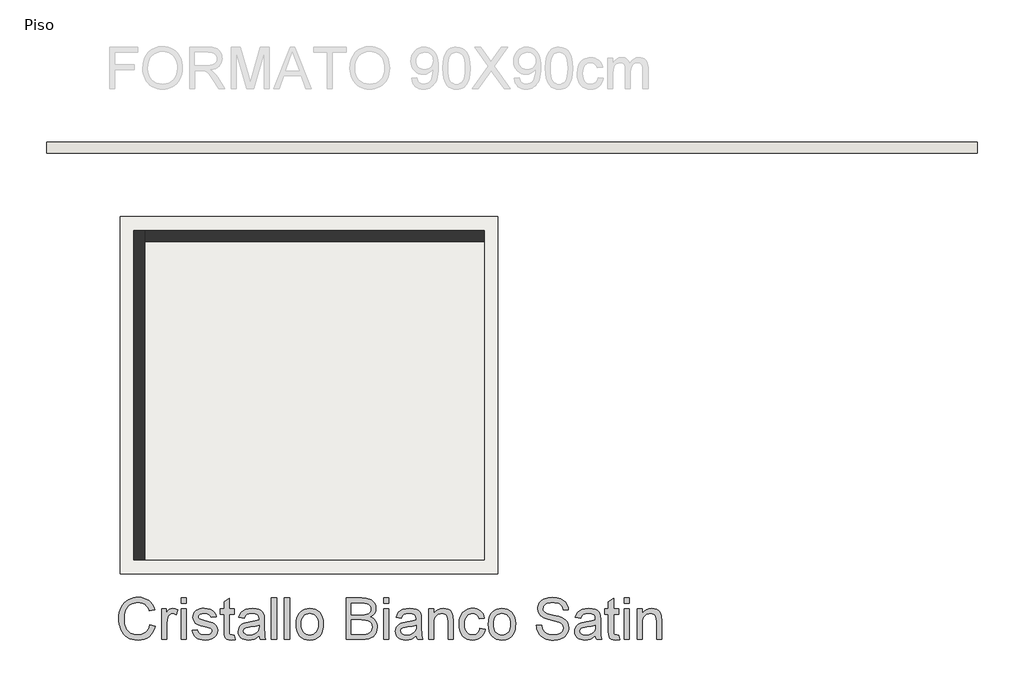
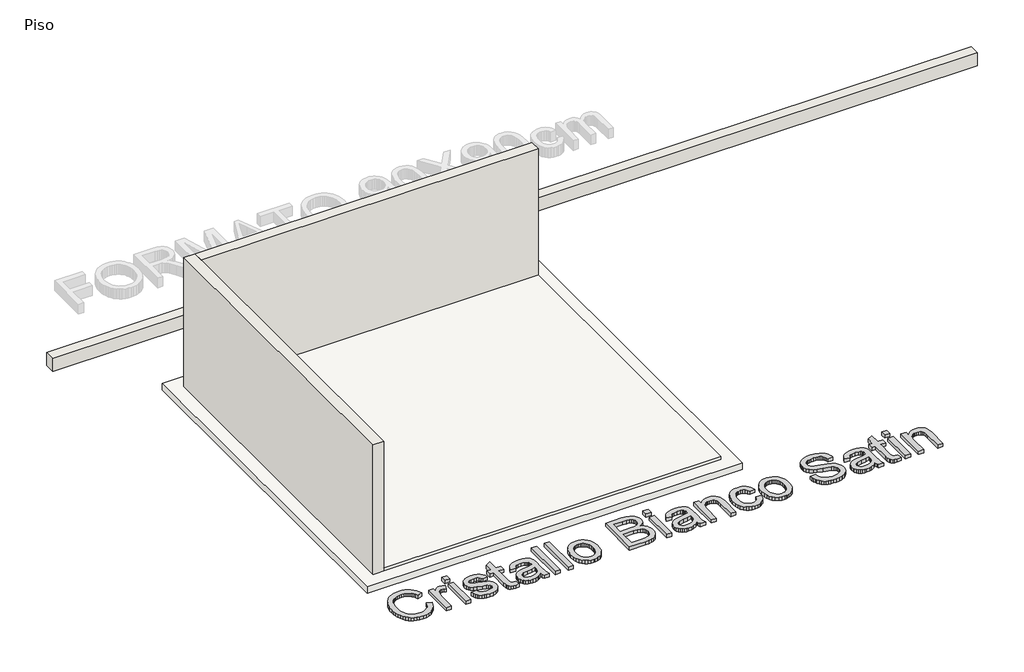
# One storey, part 1 of 2: 3 walls, 2 slabs, 1 proxy.
"""IFC4 building model written with IfcOpenShell, lengths in millimetres."""

from ifc_helpers import new_model, si_unit, frame, origin, origin_with_axes, place, context, project, spatial, polyline, outline, extrude, faceted_brep, element, save

model = new_model("IFC4")

# Units and contexts
model_context = context("Model", 3, world=origin())
ifc_project = project(units=[si_unit("LENGTHUNIT", "METRE", prefix="MILLI")], contexts=[model_context])

# Site, building, storey
site = spatial("IfcSite", under=ifc_project)
building = spatial("IfcBuilding", under=site)
storey = spatial("IfcBuildingStorey", under=building, Name="Piso", Elevation=0.0)

# Proxy
placement = place(None, origin())
element("IfcBuildingElementProxy", 1, Name="600mm Arial", ObjectType="600mm Arial", at=placement, inside=storey, context=model_context, shape_type="SweptSolid", body=[
    extrude(outline(polyline([(93186.7208776, -5076.6528071), (93262.0631103, -5096.0769765), (93247.1546924, -5142.9313471), (93227.2982617, -5183.8720146), (93202.4938182, -5218.8989791), (93172.7413618, -5248.0122405), (93138.7122773, -5270.8990991), (93101.0779492, -5287.2468553), (93059.8383775, -5297.0555089), (93014.9935623, -5300.3250602), (92969.0496996, -5297.8510538), (92927.6031943, -5290.4290345), (92890.6540465, -5278.0590024), (92858.202256, -5260.7409575), (92829.8017659, -5238.7324171), (92805.0065194, -5212.2908987), (92783.8165165, -5181.4164023), (92766.2317572, -5146.1089278), (92752.4223868, -5107.8951856), (92742.5585508, -5068.3018858), (92736.6402492, -5027.3290286), (92734.667482, -4984.9766139), (92736.8977666, -4939.5339905), (92743.5886204, -4897.0896053), (92754.7400433, -4857.6434583), (92770.3520355, -4821.1955497), (92790.075109, -4788.348286), (92813.5597758, -4759.7040742), (92840.8060361, -4735.2629141), (92871.8138898, -4715.0248059), (92905.5302746, -4699.1552963), (92940.9021285, -4687.8199323), (92977.9294513, -4681.0187139), (93016.6122431, -4678.7516411), (93059.7050203, -4681.6855), (93099.2201451, -4690.4870768), (93135.1576175, -4705.1563713), (93167.5174375, -4725.6933837), (93195.7661762, -4751.555488), (93219.3704047, -4782.2000582), (93238.330123, -4817.6270943), (93252.6453312, -4857.8365964), (93177.3030986, -4875.7892377), (93165.4389042, -4846.1609416), (93151.1834769, -4820.8460618), (93134.5368166, -4799.8445984), (93115.4989234, -4783.1565514), (93093.9594326, -4770.4416299), (93069.8079796, -4761.3595431), (93043.0445644, -4755.9102911), (93013.6691871, -4754.0938737), (92979.8700288, -4756.1080277), (92948.9587442, -4762.1504894), (92920.9353332, -4772.2212591), (92895.7997959, -4786.3203365), (92873.8694304, -4803.8131254), (92855.4615351, -4824.0650292), (92840.5761099, -4847.076048), (92829.2131547, -4872.8461818), (92814.8105746, -4927.9916929), (92810.0097146, -4984.8294611), (92815.6934914, -5054.4327346), (92822.7982124, -5085.7027042), (92832.7448219, -5114.618229), (92845.6942681, -5140.6044934), (92861.8074995, -5163.0866819), (92881.0845161, -5182.0647943), (92903.5253178, -5197.5388307), (92928.0400542, -5209.5455793), (92953.538875, -5218.1218284), (92980.0217801, -5223.2675778), (93007.4887696, -5224.9828276), (93040.2440627, -5222.6467769), (93070.3781967, -5215.6386249), (93097.8911714, -5203.9583715), (93122.7829869, -5187.6060169), (93144.465032, -5166.6551372), (93162.3486955, -5141.1793091), (93176.4339774, -5111.1785324), (93186.7208776, -5076.6528071)])), origin_with_axes(), (0.0, 0.0, 1.0), 50.0),
    extrude(outline(polyline([(93356.240901, -5290.9072811), (93356.240901, -4848.2716645), (93422.1653546, -4848.2716645), (93422.1653546, -4913.7546596), (93446.5191426, -4875.7892377), (93468.9599443, -4853.4220124), (93491.4743224, -4842.4959172), (93516.0488397, -4838.8538854), (93553.5728032, -4844.666421), (93591.6853779, -4862.1040275), (93566.5222495, -4929.6471618), (93540.0347458, -4918.058879), (93513.5472422, -4914.196118), (93491.0512582, -4917.9117262), (93470.9465071, -4929.0585506), (93454.704517, -4946.7904628), (93443.7968159, -4970.2613341), (93434.6365542, -5012.3470344), (93431.5831336, -5058.2587074), (93431.5831336, -5290.9072811), (93356.240901, -5290.9072811)])), origin_with_axes(), (0.0, 0.0, 1.0), 50.0),
    extrude(outline(polyline([(93638.7742733, -4763.5116528), (93638.7742733, -4688.1694202), (93714.1165059, -4688.1694202), (93714.1165059, -4763.5116528), (93638.7742733, -4763.5116528)])), origin_with_axes(), (0.0, 0.0, 1.0), 50.0),
    extrude(outline(polyline([(93638.7742733, -5290.9072811), (93638.7742733, -4848.2716645), (93714.1165059, -4848.2716645), (93714.1165059, -5290.9072811), (93638.7742733, -5290.9072811)])), origin_with_axes(), (0.0, 0.0, 1.0), 50.0),
    extrude(outline(polyline([(93798.8765176, -5159.058374), (93874.2187502, -5149.640595), (93878.7712899, -5166.8206841), (93886.1013387, -5181.8670577), (93896.2088965, -5194.7797158), (93909.0939634, -5205.5586582), (93924.7933275, -5214.0567323), (93943.3437771, -5220.1267852), (93988.9979327, -5224.9828276), (94034.1002653, -5220.5314554), (94051.6298424, -5214.9672402), (94065.8116933, -5207.177339), (94084.5736751, -5187.8267461), (94089.2641705, -5176.9926213), (94090.827669, -5165.3859443), (94089.2549735, -5155.2140072), (94084.5368869, -5146.1825042), (94065.6645405, -5131.5408008), (94037.4479915, -5121.9758689), (93988.1150159, -5110.0564923), (93919.357871, -5090.1724704), (93874.6602086, -5073.1947164), (93845.9470189, -5054.6718579), (93825.1432921, -5030.1525229), (93812.5065455, -5001.2002099), (93808.2942967, -4969.3784173), (93811.6788111, -4940.186981), (93821.8323541, -4913.2396249), (93837.8352209, -4889.6032067), (93858.7677064, -4870.3445842), (93879.5714333, -4858.2228725), (93906.6659422, -4848.0509353), (93937.9910941, -4841.1531479), (93971.4867498, -4838.8538854), (94020.5254197, -4842.5510995), (94063.162943, -4853.6427416), (94097.4495449, -4871.04356), (94121.435451, -4893.6683027), (94137.3279532, -4923.1908328), (94147.3343434, -4961.2850134), (94071.9921108, -4970.7027925), (94062.4823613, -4946.9927979), (94043.6651972, -4929.132127), (94015.3566777, -4917.9301203), (93977.3728617, -4914.196118), (93934.109939, -4917.7645734), (93905.2679906, -4928.4699395), (93889.0443946, -4943.9209833), (93883.6365293, -4961.7264718), (93885.8806095, -4973.3147547), (93892.61285, -4983.6522387), (93904.1275564, -4992.8860768), (93920.7190344, -5000.2805049), (93985.6134184, -5016.3201599), (94096.1987461, -5051.7839842), (94125.4085765, -5068.7433442), (94147.5550726, -5091.9566981), (94161.5161944, -5121.4976223), (94166.1699016, -5157.4396933), (94160.706854, -5194.5957748), (94144.3177111, -5229.5445643), (94117.6278723, -5259.545341), (94081.2627371, -5281.857384), (94037.3376269, -5295.7081411), (93987.9678631, -5300.3250602), (93947.4180702, -5298.0993741), (93912.0002311, -5291.4223159), (93881.7143459, -5280.2938855), (93856.5604145, -5264.714083), (93836.014205, -5244.7564848), (93819.5514857, -5220.4946672), (93807.1722566, -5191.9286303), (93798.8765176, -5159.058374)])), origin_with_axes(), (0.0, 0.0, 1.0), 50.0),
    extrude(outline(polyline([(94411.0321576, -5228.0730363), (94420.4499367, -5293.1145731), (94364.090415, -5300.3250602), (94327.9276149, -5297.1980632), (94300.9618646, -5287.8170723), (94281.9055773, -5273.3593099), (94269.4711658, -5255.0019984), (94262.6285607, -5223.4745114), (94260.3476924, -5169.5062227), (94260.3476924, -4923.6138971), (94203.8410179, -4923.6138971), (94203.8410179, -4848.2716645), (94260.3476924, -4848.2716645), (94260.3476924, -4740.7029691), (94335.689925, -4696.4099769), (94335.689925, -4848.2716645), (94411.0321576, -4848.2716645), (94411.0321576, -4923.6138971), (94335.689925, -4923.6138971), (94335.689925, -5167.2989307), (94339.6630505, -5206.1472694), (94352.5389204, -5219.906056), (94363.4098333, -5223.7136347), (94378.2170836, -5224.9828276), (94411.0321576, -5228.0730363)])), origin_with_axes(), (0.0, 0.0, 1.0), 50.0),
    extrude(outline(polyline([(94768.9077625, -5234.4006066), (94732.9105093, -5265.265906), (94695.8463983, -5285.4626276), (94656.8693009, -5296.609452), (94615.1330885, -5300.3250602), (94581.5868491, -5298.0901771), (94552.170085, -5291.3855277), (94526.8827964, -5280.2111121), (94505.7249832, -5264.5669302), (94489.018542, -5245.4462635), (94477.0853698, -5223.8423934), (94469.9254665, -5199.7553197), (94467.5388321, -5173.1850426), (94471.1440756, -5141.9518613), (94481.9598063, -5113.5881594), (94498.6432547, -5089.3079477), (94519.8516518, -5070.3252368), (94544.7756569, -5055.977839), (94572.6059299, -5045.6035667), (94637.7946194, -5034.2728013), (94714.8291092, -5022.3534246), (94768.4663041, -5008.3739088), (94768.9077625, -4991.5984898), (94763.7206264, -4957.9740755), (94757.2367062, -4945.5212699), (94748.159218, -4935.9747322), (94732.4690509, -4926.4465885), (94713.3575812, -4919.6407716), (94664.8707343, -4914.196118), (94619.9891309, -4917.8197557), (94588.6455849, -4928.6906687), (94567.2716409, -4948.7954197), (94552.2988437, -4980.1205716), (94476.9566111, -4970.7027925), (94490.0348161, -4929.500009), (94509.5509559, -4897.1263935), (94537.3260465, -4872.3679352), (94575.1811038, -4854.0106236), (94621.4790529, -4842.64307), (94674.5828189, -4838.8538854), (94725.5160812, -4842.2016116), (94765.8911301, -4852.2447901), (94796.3333652, -4867.346346), (94817.4681859, -4885.8692044), (94831.4844899, -4908.7698586), (94840.5711752, -4937.0048017), (94844.2499951, -5002.9292553), (94844.2499951, -5096.6655876), (94848.0759679, -5227.5580015), (94853.7413506, -5259.913223), (94863.0855533, -5290.9072811), (94787.7433207, -5290.9072811), (94775.6767912, -5264.714083), (94768.9077625, -5234.4006066)]), holes=[polyline([(94768.9077625, -5083.7161414), (94718.2872, -5096.2609175), (94647.3595513, -5106.8191307), (94582.5387437, -5119.032813), (94565.6713543, -5127.3837342), (94553.1817605, -5138.8984407), (94545.4562386, -5152.6940155), (94542.8810647, -5167.8875419), (94548.4912651, -5190.2915554), (94565.3218664, -5208.648867), (94593.0049865, -5220.8993374), (94631.1727435, -5224.9828276), (94671.639763, -5220.4762731), (94707.3978929, -5206.9566098), (94736.3869941, -5187.0357998), (94756.5469275, -5163.3258052), (94765.4864599, -5138.8984407), (94768.4663041, -5105.0532971), (94768.9077625, -5083.7161414)])]), origin_with_axes(), (0.0, 0.0, 1.0), 50.0),
    extrude(outline(polyline([(94947.845565, -5290.9072811), (94947.845565, -4688.1694202), (95023.1877976, -4688.1694202), (95023.1877976, -5290.9072811), (94947.845565, -5290.9072811)])), origin_with_axes(), (0.0, 0.0, 1.0), 50.0),
    extrude(outline(polyline([(95136.2011465, -5290.9072811), (95136.2011465, -4688.1694202), (95211.5433791, -4688.1694202), (95211.5433791, -5290.9072811), (95136.2011465, -5290.9072811)])), origin_with_axes(), (0.0, 0.0, 1.0), 50.0),
    extrude(outline(polyline([(95305.7211699, -5069.5894728), (95309.795463, -5012.2642609), (95322.0183422, -4962.866906), (95342.3898077, -4921.3974081), (95370.9098594, -4887.8557672), (95399.6230491, -4866.4174439), (95431.316083, -4851.1043559), (95465.9889611, -4841.916503), (95503.6416833, -4838.8538854), (95545.2077502, -4842.5832892), (95582.7914945, -4853.7715003), (95616.3929163, -4872.418519), (95646.0120154, -4898.524345), (95670.186461, -4931.2060618), (95687.4539222, -4969.5807524), (95697.8143988, -5013.6484169), (95701.2678911, -5063.4090553), (95699.7411808, -5103.738119), (95695.16105, -5139.5238401), (95687.5274986, -5170.7662185), (95676.8405266, -5197.4652543), (95663.2334913, -5220.5268569), (95646.8397499, -5240.8569357), (95627.6593024, -5258.4554906), (95605.6921487, -5273.3225217), (95581.7936146, -5285.1361323), (95556.8190257, -5293.5744256), (95530.7683819, -5298.6374015), (95503.6416833, -5300.3250602), (95461.468611, -5296.609452), (95423.5353788, -5285.4626276), (95389.8419866, -5266.8845868), (95360.3884343, -5240.8753298), (95336.4715061, -5207.8763148), (95319.387986, -5168.3290003), (95309.1378739, -5122.2333863), (95305.7211699, -5069.5894728)]), holes=[polyline([(95381.0634025, -5069.44232), (95383.2431033, -5105.9867977), (95389.7822058, -5137.6292478), (95400.6807099, -5164.3696703), (95415.9386156, -5186.2080653), (95434.4982623, -5203.1720238), (95455.3019891, -5215.289137), (95478.3497961, -5222.5594049), (95503.6416833, -5224.9828276), (95528.8048117, -5222.5456093), (95551.7606482, -5215.2339547), (95572.5091928, -5203.0478636), (95591.0504453, -5185.9873361), (95606.3083511, -5163.9328105), (95617.2068552, -5136.7647251), (95623.7459576, -5104.48308), (95625.9256585, -5067.0878752), (95623.7321621, -5031.7022258), (95617.1516729, -5000.8875102), (95606.1841909, -4974.6437284), (95590.8297161, -4952.9708803), (95572.2194857, -4936.0069218), (95551.4847367, -4923.8898086), (95528.6254693, -4916.6195407), (95503.6416833, -4914.196118), (95478.3497961, -4916.6103436), (95455.3019891, -4923.8530204), (95434.4982623, -4935.9241484), (95415.9386156, -4952.8237275), (95400.6807099, -4974.5977431), (95389.7822058, -5001.2921804), (95383.2431033, -5032.9070394), (95381.0634025, -5069.44232)])]), origin_with_axes(), (0.0, 0.0, 1.0), 50.0),
    extrude(outline(polyline([(96030.8901588, -5290.9072811), (96030.8901588, -4688.1694202), (96260.8899821, -4688.1694202), (96324.1472912, -4692.6023982), (96373.5354491, -4705.9013324), (96393.6126089, -4715.9583064), (96411.3905064, -4728.3973164), (96426.8691413, -4743.2183623), (96440.0485138, -4760.4214441), (96458.0931257, -4798.0925604), (96464.1079963, -4837.5295102), (96459.0496188, -4873.8210691), (96443.8744865, -4907.9421241), (96418.4722348, -4937.795748), (96382.7324989, -4961.2850134), (96405.4722048, -4970.978704), (96425.4252045, -4983.5786623), (96442.5914981, -4999.0848884), (96456.9710856, -5017.4973823), (96468.3340407, -5038.2551239), (96476.4504372, -5060.7970931), (96481.3202751, -5085.1232901), (96482.9435544, -5111.2337147), (96478.5105764, -5153.2642326), (96465.2116423, -5192.24133), (96445.3644086, -5225.3874978), (96421.286532, -5249.9252268), (96391.8007901, -5267.6939272), (96355.7299605, -5280.5330088), (96311.8968208, -5288.313713), (96259.1241486, -5290.9072811), (96030.8901588, -5290.9072811)]), holes=[polyline([(96106.2323914, -4933.0316762), (96243.8202576, -4933.0316762), (96291.9392225, -4931.4129954), (96324.1656853, -4926.5569531), (96352.2902638, -4915.3917345), (96372.5053795, -4898.6714978), (96384.7006676, -4876.6537604), (96388.7657637, -4849.5960397), (96384.9765791, -4823.3292652), (96373.6090255, -4800.4470051), (96355.1781375, -4782.5863343), (96330.19895, -4771.3843275), (96291.8656461, -4765.4798215), (96233.3724089, -4763.5116528), (96106.2323914, -4763.5116528), (96106.2323914, -4933.0316762)]), polyline([(96106.2323914, -5215.5650485), (96260.7428293, -5215.5650485), (96316.6608926, -5212.6219925), (96342.6149674, -5206.0920871), (96363.9705172, -5196.2144555), (96381.3345474, -5182.0693928), (96395.3140632, -5162.737194), (96404.5295072, -5139.0823817), (96407.6013218, -5111.9694786), (96403.9960783, -5080.4787799), (96393.1803476, -5053.402665), (96374.2896072, -5032.2310562), (96346.4593342, -5018.4538755), (96307.0407784, -5010.8939005), (96253.3851894, -5008.3739088), (96106.2323914, -5008.3739088), (96106.2323914, -5215.5650485)])]), origin_with_axes(), (0.0, 0.0, 1.0), 50.0),
    extrude(outline(polyline([(96577.1213452, -4763.5116528), (96577.1213452, -4688.1694202), (96652.4635778, -4688.1694202), (96652.4635778, -4763.5116528), (96577.1213452, -4763.5116528)])), origin_with_axes(), (0.0, 0.0, 1.0), 50.0),
    extrude(outline(polyline([(96577.1213452, -5290.9072811), (96577.1213452, -4848.2716645), (96652.4635778, -4848.2716645), (96652.4635778, -5290.9072811), (96577.1213452, -5290.9072811)])), origin_with_axes(), (0.0, 0.0, 1.0), 50.0),
    extrude(outline(polyline([(97048.010299, -5234.4006066), (97012.0130458, -5265.265906), (96974.9489348, -5285.4626276), (96935.9718374, -5296.609452), (96894.235625, -5300.3250602), (96860.6893856, -5298.0901771), (96831.2726216, -5291.3855277), (96805.9853329, -5280.2111121), (96784.8275197, -5264.5669302), (96768.1210786, -5245.4462635), (96756.1879063, -5223.8423934), (96749.028003, -5199.7553197), (96746.6413686, -5173.1850426), (96750.2466121, -5141.9518613), (96761.0623428, -5113.5881594), (96777.7457913, -5089.3079477), (96798.9541883, -5070.3252368), (96823.8781935, -5055.977839), (96851.7084664, -5045.6035667), (96916.8971559, -5034.2728013), (96993.9316457, -5022.3534246), (97047.5688406, -5008.3739088), (97048.010299, -4991.5984898), (97042.8231629, -4957.9740755), (97036.3392427, -4945.5212699), (97027.2617545, -4935.9747322), (97011.5715874, -4926.4465885), (96992.4601177, -4919.6407716), (96943.9732708, -4914.196118), (96899.0916674, -4917.8197557), (96867.7481214, -4928.6906687), (96846.3741775, -4948.7954197), (96831.4013803, -4980.1205716), (96756.0591476, -4970.7027925), (96769.1373526, -4929.500009), (96788.6534924, -4897.1263935), (96816.4285831, -4872.3679352), (96854.2836404, -4854.0106236), (96900.5815895, -4842.64307), (96953.6853555, -4838.8538854), (97004.6186177, -4842.2016116), (97044.9936667, -4852.2447901), (97075.4359018, -4867.346346), (97096.5707224, -4885.8692044), (97110.5870264, -4908.7698586), (97119.6737117, -4937.0048017), (97123.3525316, -5002.9292553), (97123.3525316, -5096.6655876), (97127.1785044, -5227.5580015), (97132.8438871, -5259.913223), (97142.1880898, -5290.9072811), (97066.8458572, -5290.9072811), (97054.7793277, -5264.714083), (97048.010299, -5234.4006066)]), holes=[polyline([(97048.010299, -5083.7161414), (96997.3897365, -5096.2609175), (96926.4620878, -5106.8191307), (96861.6412803, -5119.032813), (96844.7738908, -5127.3837342), (96832.284297, -5138.8984407), (96824.5587751, -5152.6940155), (96821.9836012, -5167.8875419), (96827.5938016, -5190.2915554), (96844.4244029, -5208.648867), (96872.107523, -5220.8993374), (96910.27528, -5224.9828276), (96950.7422995, -5220.4762731), (96986.5004294, -5206.9566098), (97015.4895306, -5187.0357998), (97035.649464, -5163.3258052), (97044.5889965, -5138.8984407), (97047.5688406, -5105.0532971), (97048.010299, -5083.7161414)])]), origin_with_axes(), (0.0, 0.0, 1.0), 50.0),
    extrude(outline(polyline([(97226.9481015, -5290.9072811), (97226.9481015, -4848.2716645), (97302.2903341, -4848.2716645), (97302.2903341, -4910.0758397), (97328.465138, -4878.9162347), (97359.9006545, -4856.659374), (97396.5968835, -4843.3052576), (97438.5538251, -4838.8538854), (97475.6915125, -4842.4407349), (97509.702203, -4853.2012832), (97538.0659048, -4869.7927612), (97558.2626263, -4890.8723995), (97571.9662307, -4916.3850159), (97580.8505808, -4946.275428), (97584.8237064, -5019.1160631), (97584.8237064, -5290.9072811), (97509.4814738, -5290.9072811), (97509.4814738, -5029.2696061), (97507.31097, -4990.3109028), (97500.7994587, -4962.6093886), (97488.7881115, -4942.762155), (97470.1181003, -4927.3662935), (97446.1873765, -4917.4886619), (97418.3938918, -4914.196118), (97395.5162302, -4916.0447251), (97374.2664464, -4921.5905461), (97354.6445405, -4930.8335813), (97336.6505124, -4943.7738305), (97321.6179344, -4961.8828217), (97310.8803787, -4986.6320829), (97304.4378452, -5018.0216141), (97302.2903341, -5056.0514154), (97302.2903341, -5290.9072811), (97226.9481015, -5290.9072811)])), origin_with_axes(), (0.0, 0.0, 1.0), 50.0),
    extrude(outline(polyline([(97970.9526485, -5130.8050368), (98046.2948811, -5140.2228159), (98038.1003097, -5175.7740122), (98025.2888192, -5207.2325213), (98007.8604097, -5234.5983432), (97985.8150811, -5257.8714779), (97960.0817356, -5276.4449202), (97931.589275, -5289.7116646), (97900.3376995, -5297.6717113), (97866.3270091, -5300.3250602), (97824.0711634, -5296.6232476), (97786.1839164, -5285.5178099), (97752.6652682, -5267.008747), (97723.5152186, -5241.096059), (97699.9201871, -5208.2671894), (97683.0665932, -5169.009582), (97672.9544369, -5123.3232367), (97669.5837181, -5071.2081536), (97675.3410713, -5004.16166), (97682.5377628, -4973.9907378), (97692.613131, -4946.0546988), (97705.6361536, -4920.914563), (97721.6758086, -4899.1313503), (97740.7320959, -4880.7050609), (97762.8050156, -4865.6356947), (97786.8966878, -4853.9186531), (97812.0092325, -4845.5493377), (97838.1426497, -4840.5277485), (97865.2969395, -4838.8538854), (97898.7236173, -4841.1531479), (97928.9589188, -4848.0509353), (97956.0028439, -4859.5472477), (97979.8553928, -4875.6420849), (98000.1118952, -4895.9675652), (98016.3676808, -4920.1558064), (98028.6227498, -4948.2068085), (98036.8771021, -4980.1205716), (97961.5348694, -4989.5383507), (97947.8680533, -4956.6680944), (97926.5860799, -4933.1052526), (97898.8661716, -4918.9234017), (97865.8855507, -4914.196118), (97840.2855624, -4916.5229717), (97817.1963686, -4923.5035325), (97796.6179695, -4935.1378006), (97778.550365, -4951.425776), (97763.8396838, -4972.7445376), (97753.3320543, -4999.4711645), (97747.0274766, -5031.6056568), (97744.9259507, -5069.1480144), (97746.9814913, -5107.2559906), (97753.1481133, -5139.7629634), (97763.4258165, -5166.6689328), (97777.8146011, -5187.9738989), (97795.5235206, -5204.1653052), (97815.7616289, -5215.7305954), (97838.5289258, -5222.6697695), (97863.8254115, -5224.9828276), (97902.8392971, -5219.2070802), (97919.7112851, -5211.9873961), (97934.8266366, -5201.8798383), (97947.7622872, -5188.7740422), (97958.0951728, -5172.5596433), (97965.8252932, -5153.2366415), (97970.9526485, -5130.8050368)])), origin_with_axes(), (0.0, 0.0, 1.0), 50.0),
    extrude(outline(polyline([(98093.3837765, -5069.5894728), (98097.4580696, -5012.2642609), (98109.6809489, -4962.866906), (98130.0524144, -4921.3974081), (98158.5724661, -4887.8557672), (98187.2856558, -4866.4174439), (98218.9786897, -4851.1043559), (98253.6515677, -4841.916503), (98291.3042899, -4838.8538854), (98332.8703568, -4842.5832892), (98370.4541012, -4853.7715003), (98404.0555229, -4872.418519), (98433.6746221, -4898.524345), (98457.8490677, -4931.2060618), (98475.1165288, -4969.5807524), (98485.4770055, -5013.6484169), (98488.9304977, -5063.4090553), (98487.4037874, -5103.738119), (98482.8236566, -5139.5238401), (98475.1901052, -5170.7662185), (98464.5031332, -5197.4652543), (98450.896098, -5220.5268569), (98434.5023565, -5240.8569357), (98415.321909, -5258.4554906), (98393.3547554, -5273.3225217), (98369.4562213, -5285.1361323), (98344.4816323, -5293.5744256), (98318.4309885, -5298.6374015), (98291.3042899, -5300.3250602), (98249.1312177, -5296.609452), (98211.1979855, -5285.4626276), (98177.5045932, -5266.8845868), (98148.051041, -5240.8753298), (98124.1341128, -5207.8763148), (98107.0505926, -5168.3290003), (98096.8004805, -5122.2333863), (98093.3837765, -5069.5894728)]), holes=[polyline([(98168.7260091, -5069.44232), (98170.9057099, -5105.9867977), (98177.4448124, -5137.6292478), (98188.3433165, -5164.3696703), (98203.6012223, -5186.2080653), (98222.1608689, -5203.1720238), (98242.9645958, -5215.289137), (98266.0124028, -5222.5594049), (98291.3042899, -5224.9828276), (98316.4674184, -5222.5456093), (98339.4232549, -5215.2339547), (98360.1717994, -5203.0478636), (98378.713052, -5185.9873361), (98393.9709577, -5163.9328105), (98404.8694618, -5136.7647251), (98411.4085643, -5104.48308), (98413.5882651, -5067.0878752), (98411.3947687, -5031.7022258), (98404.8142795, -5000.8875102), (98393.8467975, -4974.6437284), (98378.4923228, -4952.9708803), (98359.8820923, -4936.0069218), (98339.1473434, -4923.8898086), (98316.2880759, -4916.6195407), (98291.3042899, -4914.196118), (98266.0124028, -4916.6103436), (98242.9645958, -4923.8530204), (98222.1608689, -4935.9241484), (98203.6012223, -4952.8237275), (98188.3433165, -4974.5977431), (98177.4448124, -5001.2921804), (98170.9057099, -5032.9070394), (98168.7260091, -5069.44232)])]), origin_with_axes(), (0.0, 0.0, 1.0), 50.0),
    extrude(outline(polyline([(98790.2994282, -5083.7161414), (98865.6416608, -5083.7161414), (98874.2868877, -5125.5259302), (98889.9218725, -5159.1319504), (98914.3124488, -5185.8033951), (98949.2244501, -5206.809457), (98991.8987615, -5220.4394849), (99039.5762681, -5224.9828276), (99081.5516038, -5221.5431309), (99118.3030151, -5211.2240409), (99148.0830626, -5194.8900804), (99169.1443068, -5173.4057718), (99181.6706887, -5148.7392841), (99185.8461494, -5122.8587857), (99182.7191524, -5097.6404749), (99173.3381616, -5075.8434667), (99154.2818742, -5057.2470319), (99122.1289878, -5041.6304412), (99012.4265769, -5012.8620691), (98940.4136763, -4993.8241759), (98894.3364564, -4975.7059876), (98856.830887, -4950.3589182), (98830.2514129, -4919.6407716), (98814.414093, -4884.2137354), (98809.1349863, -4844.7399974), (98810.7674627, -4822.3037942), (98815.6648917, -4800.612552), (98823.8272735, -4779.6662709), (98835.254608, -4759.4649509), (98849.8181365, -4740.8317278), (98867.3891003, -4724.5897377), (98887.9674994, -4710.7389806), (98911.5533338, -4699.2794565), (98964.5651293, -4683.883595), (99023.2423075, -4678.7516411), (99086.8123163, -4684.1227183), (99142.436074, -4700.2359496), (99166.7714679, -4712.2380997), (99188.1270178, -4726.7602415), (99206.5027234, -4743.8023749), (99221.8985849, -4763.3645), (99234.1950406, -4784.8763997), (99243.2725288, -4807.7678568), (99249.1310496, -4832.0388715), (99251.7706029, -4857.6894436), (99176.4283703, -4857.6894436), (99171.388387, -4833.6483552), (99162.5960073, -4812.7342638), (99150.0512313, -4794.9471693), (99133.7540589, -4780.2870718), (99113.4009875, -4768.8275476), (99088.6885145, -4760.6421733), (99059.6166398, -4755.7309486), (99026.1853635, -4754.0938737), (98991.6872294, -4755.7125545), (98962.2106845, -4760.5685969), (98937.7557289, -4768.6620007), (98918.3223625, -4779.9927662), (98903.5151122, -4793.6135971), (98892.9385048, -4808.5771972), (98886.5925404, -4824.8835667), (98884.4772189, -4842.5327054), (98885.9763381, -4857.7170347), (98890.4736955, -4871.4850184), (98897.9692911, -4883.8366564), (98908.463125, -4894.7719487), (98924.9810266, -4905.1278269), (98950.9902837, -4915.5940696), (99031.4828642, -4936.8576489), (99114.5506187, -4957.0543705), (99164.8032993, -4974.675918), (99207.7535222, -5002.0095503), (99224.3587958, -5018.0767964), (99237.7175107, -5035.7443292), (99247.9860169, -5054.9201782), (99255.3206642, -5075.5123729), (99261.188382, -5120.9457993), (99259.5007234, -5144.5132396), (99254.4377474, -5167.3909012), (99245.9994541, -5189.5787841), (99234.1858436, -5211.0768881), (99219.2038493, -5231.0528805), (99201.260405, -5248.6744281), (99180.3555106, -5263.9415309), (99156.4891662, -5276.8541889), (99130.3557489, -5287.1226951), (99102.6496362, -5294.4573424), (99042.5193241, -5300.3250602), (99003.9790866, -5298.7431676), (98968.7038017, -5293.9974899), (98936.6934696, -5286.088027), (98907.9480902, -5275.0147789), (98882.2929196, -5260.7593516), (98859.5532138, -5243.3033509), (98839.7289728, -5222.6467769), (98822.8201966, -5198.7896295), (98809.1993657, -5172.504461), (98799.2389607, -5144.5638234), (98792.9389815, -5114.9677169), (98790.2994282, -5083.7161414)])), origin_with_axes(), (0.0, 0.0, 1.0), 50.0),
    extrude(outline(polyline([(99647.3173241, -5234.4006066), (99611.3200709, -5265.265906), (99574.2559599, -5285.4626276), (99535.2788625, -5296.609452), (99493.5426502, -5300.3250602), (99459.9964107, -5298.0901771), (99430.5796467, -5291.3855277), (99405.292358, -5280.2111121), (99384.1345448, -5264.5669302), (99367.4281037, -5245.4462635), (99355.4949315, -5223.8423934), (99348.3350281, -5199.7553197), (99345.9483937, -5173.1850426), (99349.5536372, -5141.9518613), (99360.3693679, -5113.5881594), (99377.0528164, -5089.3079477), (99398.2612134, -5070.3252368), (99423.1852186, -5055.977839), (99451.0154915, -5045.6035667), (99516.2041811, -5034.2728013), (99593.2386708, -5022.3534246), (99646.8758657, -5008.3739088), (99647.3173241, -4991.5984898), (99642.130188, -4957.9740755), (99635.6462678, -4945.5212699), (99626.5687796, -4935.9747322), (99610.8786125, -4926.4465885), (99591.7671429, -4919.6407716), (99543.2802959, -4914.196118), (99498.3986925, -4917.8197557), (99467.0551465, -4928.6906687), (99445.6812026, -4948.7954197), (99430.7084054, -4980.1205716), (99355.3661728, -4970.7027925), (99368.4443777, -4929.500009), (99387.9605175, -4897.1263935), (99415.7356082, -4872.3679352), (99453.5906655, -4854.0106236), (99499.8886146, -4842.64307), (99552.9923806, -4838.8538854), (99603.9256428, -4842.2016116), (99644.3006918, -4852.2447901), (99674.7429269, -4867.346346), (99695.8777475, -4885.8692044), (99709.8940515, -4908.7698586), (99718.9807368, -4937.0048017), (99722.6595568, -5002.9292553), (99722.6595568, -5096.6655876), (99726.4855295, -5227.5580015), (99732.1509122, -5259.913223), (99741.4951149, -5290.9072811), (99666.1528823, -5290.9072811), (99654.0863529, -5264.714083), (99647.3173241, -5234.4006066)]), holes=[polyline([(99647.3173241, -5083.7161414), (99596.6967616, -5096.2609175), (99525.7691129, -5106.8191307), (99460.9483054, -5119.032813), (99444.0809159, -5127.3837342), (99431.5913222, -5138.8984407), (99423.8658003, -5152.6940155), (99421.2906263, -5167.8875419), (99426.9008267, -5190.2915554), (99443.731428, -5208.648867), (99471.4145481, -5220.8993374), (99509.5823051, -5224.9828276), (99550.0493246, -5220.4762731), (99585.8074545, -5206.9566098), (99614.7965558, -5187.0357998), (99634.9564891, -5163.3258052), (99643.8960216, -5138.8984407), (99646.8758657, -5105.0532971), (99647.3173241, -5083.7161414)])]), origin_with_axes(), (0.0, 0.0, 1.0), 50.0),
    extrude(outline(polyline([(99986.3573709, -5228.0730363), (99995.77515, -5293.1145731), (99939.4156283, -5300.3250602), (99903.2528282, -5297.1980632), (99876.2870779, -5287.8170723), (99857.2307906, -5273.3593099), (99844.7963792, -5255.0019984), (99837.953774, -5223.4745114), (99835.6729057, -5169.5062227), (99835.6729057, -4923.6138971), (99779.1662312, -4923.6138971), (99779.1662312, -4848.2716645), (99835.6729057, -4848.2716645), (99835.6729057, -4740.7029691), (99911.0151383, -4696.4099769), (99911.0151383, -4848.2716645), (99986.3573709, -4848.2716645), (99986.3573709, -4923.6138971), (99911.0151383, -4923.6138971), (99911.0151383, -5167.2989307), (99914.9882638, -5206.1472694), (99927.8641337, -5219.906056), (99938.7350466, -5223.7136347), (99953.5422969, -5224.9828276), (99986.3573709, -5228.0730363)])), origin_with_axes(), (0.0, 0.0, 1.0), 50.0),
    extrude(outline(polyline([(100061.6996035, -4763.5116528), (100061.6996035, -4688.1694202), (100137.0418361, -4688.1694202), (100137.0418361, -4763.5116528), (100061.6996035, -4763.5116528)])), origin_with_axes(), (0.0, 0.0, 1.0), 50.0),
    extrude(outline(polyline([(100061.6996035, -5290.9072811), (100061.6996035, -4848.2716645), (100137.0418361, -4848.2716645), (100137.0418361, -5290.9072811), (100061.6996035, -5290.9072811)])), origin_with_axes(), (0.0, 0.0, 1.0), 50.0),
    extrude(outline(polyline([(100250.055185, -5290.9072811), (100250.055185, -4848.2716645), (100325.3974177, -4848.2716645), (100325.3974177, -4910.0758397), (100351.5722216, -4878.9162347), (100383.0077381, -4856.659374), (100419.7039671, -4843.3052576), (100461.6609087, -4838.8538854), (100498.7985961, -4842.4407349), (100532.8092865, -4853.2012832), (100561.1729884, -4869.7927612), (100581.3697099, -4890.8723995), (100595.0733142, -4916.3850159), (100603.9576644, -4946.275428), (100607.9307899, -5019.1160631), (100607.9307899, -5290.9072811), (100532.5885573, -5290.9072811), (100532.5885573, -5029.2696061), (100530.4180536, -4990.3109028), (100523.9065422, -4962.6093886), (100511.8951951, -4942.762155), (100493.2251839, -4927.3662935), (100469.2944601, -4917.4886619), (100441.5009753, -4914.196118), (100418.6233138, -4916.0447251), (100397.37353, -4921.5905461), (100377.7516241, -4930.8335813), (100359.757596, -4943.7738305), (100344.725018, -4961.8828217), (100333.9874622, -4986.6320829), (100327.5449288, -5018.0216141), (100325.3974177, -5056.0514154), (100325.3974177, -5290.9072811), (100250.055185, -5290.9072811)])), origin_with_axes(), (0.0, 0.0, 1.0), 50.0),
])

# Slabs
element("IfcSlab", 2, ObjectType="5cm - Porcelanato Cristallo Bianco Satin  - Polido 90X90", at=placement, inside=storey, context=model_context, shape_type="SweptSolid", body=[
    extrude(outline(polyline([(98032.6110461, 485.2263502), (98032.6110461, -4135.3736498), (93112.0110461, -4135.3736498), (93112.0110461, 485.2263502), (98032.6110461, 485.2263502)])), origin_with_axes(), (0.0, 0.0, 1.0), 50.0),
])
element("IfcSlab", 3, ObjectType="CO02 - Concreto Estrutural Simples", at=placement, inside=storey, context=model_context, shape_type="SweptSolid", body=[
    extrude(outline(polyline([(98232.6110461, 844.0263502), (98232.6110461, -4335.3736498), (92753.2110461, -4335.3736498), (92753.2110461, 844.0263502), (98232.6110461, 844.0263502)])), frame((0.0, 0.0, -100.0), z_axis=(0.0, 0.0, 1.0), x_axis=(1.0, 0.0, 0.0)), (0.0, 0.0, 1.0), 100.0),
])

# Walls
element("IfcWall", 4, ObjectType="CO01 - Bloco de Concreto 14cm / Pintura Branca Simples", at=placement, inside=storey, context=model_context, shape_type="SweptSolid", body=[
    extrude(outline(polyline([(105186.699165, 1765.7486968), (91686.699165, 1765.7486968), (91686.699165, 1924.5486968), (105186.699165, 1924.5486968), (105186.699165, 1765.7486968)])), origin_with_axes(), (0.0, 0.0, 1.0), 200.0),
])
element("IfcWall", 5, ObjectType="CO01 - Bloco de Concreto 14cm / Pintura Branca Simples", at=placement, inside=storey, context=model_context, shape_type="Brep", body=[
    faceted_brep([(93112.0110461, -4135.3736498, 0.0), (93112.0110461, 485.2263502, 0.0), (93112.0110461, 644.0263502, 0.0), (93112.0110461, 644.0263502, 2000.0), (93112.0110461, 485.2263502, 2000.0), (93112.0110461, -4135.3736498, 2000.0), (92953.2110461, -4135.3736498, 0.0), (92953.2110461, -4135.3736498, 2000.0), (92953.2110461, 644.0263502, 2000.0), (92953.2110461, 644.0263502, 0.0)], [[[0, 1, 2, 3, 4, 5]], [[6, 7, 8, 9]], [[2, 1, 0, 6, 9]], [[5, 4, 3, 8, 7]], [[0, 5, 7, 6]], [[3, 2, 9, 8]]]),
])
element("IfcWall", 6, ObjectType="CO01 - Bloco de Concreto 14cm / Pintura Branca Simples", at=placement, inside=storey, context=model_context, shape_type="SweptSolid", body=[
    extrude(outline(polyline([(98032.6110461, 485.2263502), (93112.0110461, 485.2263502), (93112.0110461, 644.0263502), (98032.6110461, 644.0263502), (98032.6110461, 485.2263502)])), origin_with_axes(), (0.0, 0.0, 1.0), 2000.0),
])

save(model, "model.ifc")
